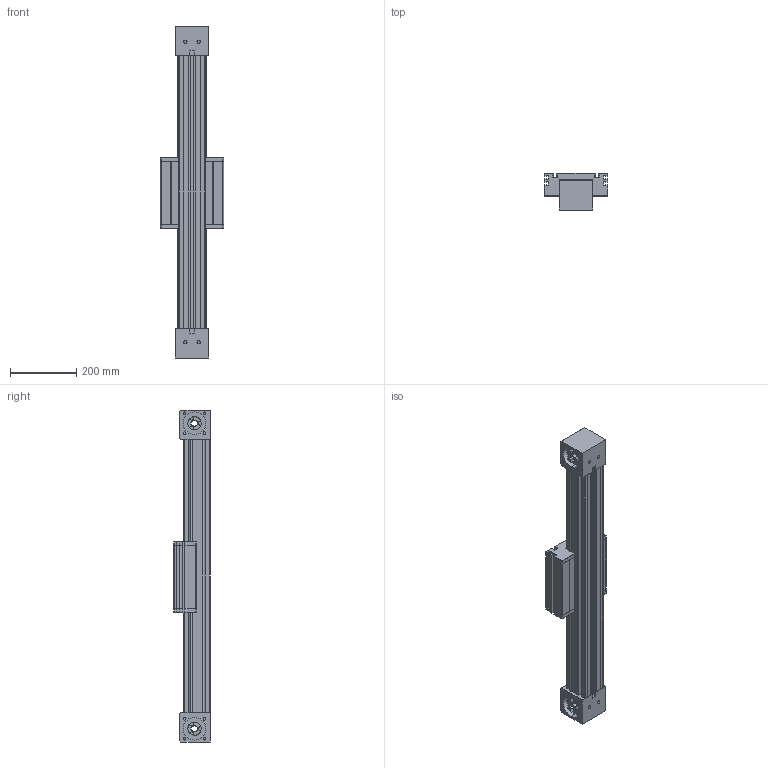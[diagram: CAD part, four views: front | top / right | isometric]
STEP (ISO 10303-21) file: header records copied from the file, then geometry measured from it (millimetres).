
FILE_DESCRIPTION (( 'STEP AP214' ), '1' );
FILE_NAME ('MLZ-80S.STEP', '2016-01-14T10:50:17', ( 'admin' ), ( '' ), 'SwSTEP 2.0', 'SolidWorks 2015', '' );
FILE_SCHEMA (( 'AUTOMOTIVE_DESIGN' ));
Length unit declared in the file: millimetre
Products named in the file (5): Kopie von Bahr-MLZ-MLZ-80S  1  0 0 0  07  1  1395_MLZ Extrusion 80S^MLZ80S_0; Kopie von Bahr-MLZ-MLZ-80S  1  0 0 0  07  1  1395_MLZ80S Carriage^MLZ80S_A; Kopie von Bahr-MLZ-MLZ-80S  1  0 0 0  07  1  1395_MLZ End_Block(2)^MLZ80S_MLZ-80S-A; Kopie von Bahr-MLZ-MLZ-80S  1  0 0 0  07  1  1395_MLZ End_Block(1)^MLZ80S_MLZ-80S-B; MLZ-80S
Assembly tree (4 placements, depth 2):
  MLZ-80S
    Kopie von Bahr-MLZ-MLZ-80S  1  0 0 0  07  1  1395_MLZ End_Block(1)^MLZ80S_MLZ-80S-B
    Kopie von Bahr-MLZ-MLZ-80S  1  0 0 0  07  1  1395_MLZ End_Block(2)^MLZ80S_MLZ-80S-A
    Kopie von Bahr-MLZ-MLZ-80S  1  0 0 0  07  1  1395_MLZ80S Carriage^MLZ80S_A
    Kopie von Bahr-MLZ-MLZ-80S  1  0 0 0  07  1  1395_MLZ Extrusion 80S^MLZ80S_0
Bounding box: 190 x 111 x 1000 mm (x, y, z)
Volume: 8129970 mm3; surface area: 785702.4 mm2
Topology: 8 solids, 8 shells, 487 faces, 1309 edges, 866 vertices
Faces by surface type: plane 334, cylinder 141, torus 8, cone 4
Entity records: 15442 total; most frequent: CARTESIAN_POINT 2669, ORIENTED_EDGE 2618, DIRECTION 2603, EDGE_CURVE 1309, VECTOR 1003, LINE 1003, VERTEX_POINT 866, AXIS2_PLACEMENT_3D 800
